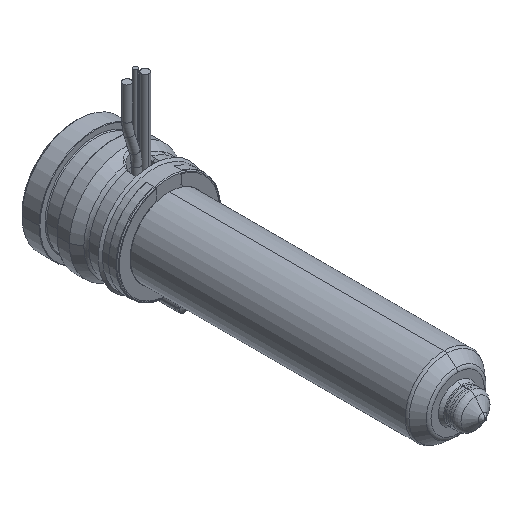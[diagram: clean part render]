
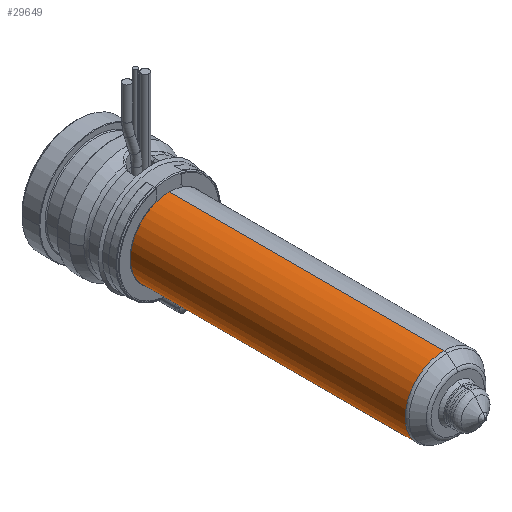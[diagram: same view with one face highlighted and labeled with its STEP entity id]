
A CAD part, isometric view. The second image highlights one B-rep face of the part: STEP entity #29649.
In plain terms, the highlighted cylindrical face has radius 9 mm (diameter 18 mm), a partial arc.
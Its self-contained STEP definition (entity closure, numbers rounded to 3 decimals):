
#29096=CARTESIAN_POINT('',(0.,-85.836,0.));
#29097=DIRECTION('',(0.,-1.,0.));
#29098=DIRECTION('',(0.,0.,1.));
#29099=AXIS2_PLACEMENT_3D('',#29096,#29097,#29098);
#29104=CARTESIAN_POINT('',(0.,-22.,0.));
#29105=DIRECTION('',(0.,-1.,0.));
#29106=DIRECTION('',(0.,0.,1.));
#29107=AXIS2_PLACEMENT_3D('',#29104,#29105,#29106);
#29112=DIRECTION('',(0.,-1.,0.));
#29113=VECTOR('',#29112,63.836);
#29114=CARTESIAN_POINT('',(0.,-22.,9.));
#29115=LINE('',#29114,#29113);
#29127=DIRECTION('',(0.,-1.,0.));
#29128=VECTOR('',#29127,63.836);
#29129=CARTESIAN_POINT('',(0.,-22.,-9.));
#29130=LINE('',#29129,#29128);
#29330=CARTESIAN_POINT('',(0.,-22.,9.));
#29331=CARTESIAN_POINT('',(0.,-85.836,9.));
#29332=VERTEX_POINT('',#29330);
#29333=VERTEX_POINT('',#29331);
#29352=CARTESIAN_POINT('',(0.,-22.,-9.));
#29353=CARTESIAN_POINT('',(0.,-85.836,-9.));
#29354=VERTEX_POINT('',#29352);
#29355=VERTEX_POINT('',#29353);
#29635=CARTESIAN_POINT('',(0.,-14.125,0.));
#29636=DIRECTION('',(0.,-1.,0.));
#29637=DIRECTION('',(0.,0.,1.));
#29638=AXIS2_PLACEMENT_3D('',#29635,#29636,#29637);
#29639=CYLINDRICAL_SURFACE('',#29638,9.);
#29641=ORIENTED_EDGE('',*,*,#29640,.T.);
#29642=ORIENTED_EDGE('',*,*,#29630,.T.);
#29644=ORIENTED_EDGE('',*,*,#29643,.F.);
#29646=ORIENTED_EDGE('',*,*,#29645,.F.);
#29647=EDGE_LOOP('',(#29641,#29642,#29644,#29646));
#29648=FACE_OUTER_BOUND('',#29647,.F.);
#29649=ADVANCED_FACE('',(#29648),#29639,.T.);
#29100=CIRCLE('',#29099,9.);
#29108=CIRCLE('',#29107,9.);
#29630=EDGE_CURVE('',#29333,#29355,#29100,.T.);
#29640=EDGE_CURVE('',#29332,#29333,#29115,.T.);
#29643=EDGE_CURVE('',#29354,#29355,#29130,.T.);
#29645=EDGE_CURVE('',#29332,#29354,#29108,.T.);
